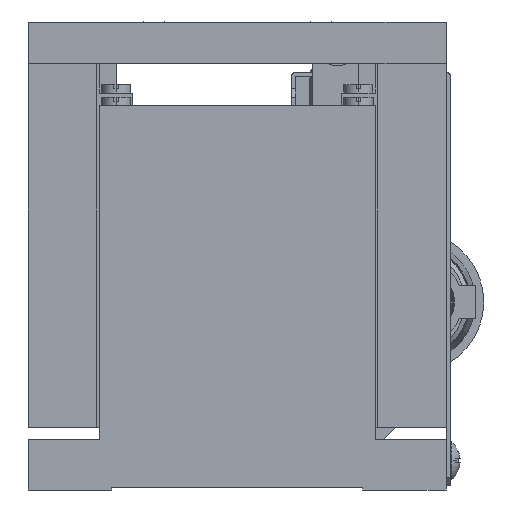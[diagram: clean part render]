
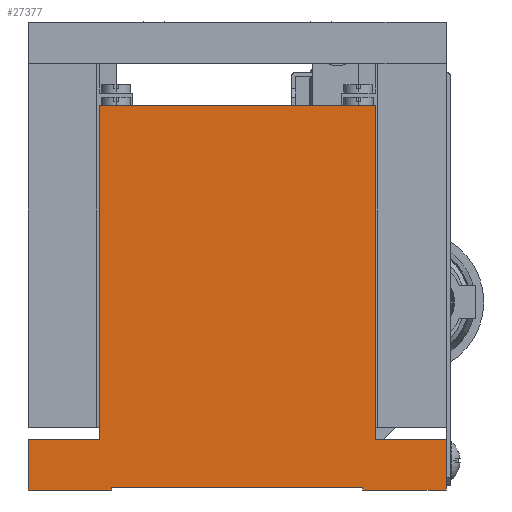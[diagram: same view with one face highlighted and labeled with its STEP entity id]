
A CAD part, left-side view. The second image highlights one B-rep face of the part: STEP entity #27377.
In plain terms, the highlighted planar face has unit normal (-1, 0, 0).
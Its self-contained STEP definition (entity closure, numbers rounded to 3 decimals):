
#443 = LINE ( 'NONE', #21240, #42556 ) ;
#1587 = ORIENTED_EDGE ( 'NONE', *, *, #22183, .T. ) ;
#1855 = EDGE_CURVE ( 'NONE', #29939, #47254, #47954, .T. ) ;
#2358 = CARTESIAN_POINT ( 'NONE',  ( -143.935, -0.5, -91.533 ) ) ;
#2485 = ORIENTED_EDGE ( 'NONE', *, *, #9915, .F. ) ;
#4109 = VECTOR ( 'NONE', #18119, 1000. ) ;
#4693 = EDGE_CURVE ( 'NONE', #47254, #36971, #38980, .T. ) ;
#4984 = CARTESIAN_POINT ( 'NONE',  ( -143.935, -0.5, -51.533 ) ) ;
#5190 = LINE ( 'NONE', #52451, #9577 ) ;
#6067 = LINE ( 'NONE', #39865, #47514 ) ;
#6122 = CARTESIAN_POINT ( 'NONE',  ( -143.935, -9., -91.533 ) ) ;
#6722 = ORIENTED_EDGE ( 'NONE', *, *, #47785, .T. ) ;
#6800 = VERTEX_POINT ( 'NONE', #28895 ) ;
#6886 = EDGE_CURVE ( 'NONE', #49344, #36899, #443, .T. ) ;
#6894 = VECTOR ( 'NONE', #27675, 1000. ) ;
#7329 = CARTESIAN_POINT ( 'NONE',  ( -143.935, 16., -97.533 ) ) ;
#7390 = CARTESIAN_POINT ( 'NONE',  ( -143.935, 1., -97.233 ) ) ;
#9044 = DIRECTION ( 'NONE',  ( 0., 0., 1. ) ) ;
#9207 = EDGE_CURVE ( 'NONE', #13121, #29939, #20279, .T. ) ;
#9266 = VERTEX_POINT ( 'NONE', #43283 ) ;
#9577 = VECTOR ( 'NONE', #49041, 1000. ) ;
#9915 = EDGE_CURVE ( 'NONE', #38780, #31003, #17601, .T. ) ;
#10507 = LINE ( 'NONE', #22406, #4109 ) ;
#11453 = CARTESIAN_POINT ( 'NONE',  ( -143.935, 1., -97.533 ) ) ;
#12042 = LINE ( 'NONE', #37595, #26734 ) ;
#12072 = EDGE_CURVE ( 'NONE', #37241, #31003, #5190, .T. ) ;
#12506 = CARTESIAN_POINT ( 'NONE',  ( -143.935, 31., -97.533 ) ) ;
#12648 = ORIENTED_EDGE ( 'NONE', *, *, #36181, .T. ) ;
#13121 = VERTEX_POINT ( 'NONE', #12506 ) ;
#15530 = PLANE ( 'NONE',  #45654 ) ;
#15562 = DIRECTION ( 'NONE',  ( 0., -1., 0. ) ) ;
#15633 = DIRECTION ( 'NONE',  ( 0., 0., -1. ) ) ;
#16344 = EDGE_CURVE ( 'NONE', #36899, #46602, #6067, .T. ) ;
#17241 = VECTOR ( 'NONE', #31570, 1000. ) ;
#17601 = LINE ( 'NONE', #24420, #32280 ) ;
#18119 = DIRECTION ( 'NONE',  ( 0., 0., 1. ) ) ;
#18138 = CARTESIAN_POINT ( 'NONE',  ( -143.935, 31., -97.533 ) ) ;
#18546 = CARTESIAN_POINT ( 'NONE',  ( -143.935, -9., -97.533 ) ) ;
#18980 = ORIENTED_EDGE ( 'NONE', *, *, #6886, .T. ) ;
#19138 = CARTESIAN_POINT ( 'NONE',  ( -143.935, 32.5, -51.533 ) ) ;
#19374 = DIRECTION ( 'NONE',  ( 0., 1., 0. ) ) ;
#19481 = CARTESIAN_POINT ( 'NONE',  ( -143.935, 16., -91.533 ) ) ;
#19808 = CARTESIAN_POINT ( 'NONE',  ( -143.935, 16., -91.533 ) ) ;
#19916 = CARTESIAN_POINT ( 'NONE',  ( -143.935, 1., -97.233 ) ) ;
#20279 = LINE ( 'NONE', #18138, #36852 ) ;
#21240 = CARTESIAN_POINT ( 'NONE',  ( -143.935, -9., -97.533 ) ) ;
#21900 = DIRECTION ( 'NONE',  ( 0., 0., 1. ) ) ;
#21989 = EDGE_LOOP ( 'NONE', ( #22498, #2485, #1587, #24333, #6722, #49608, #46058, #23742, #23599, #18980, #51044, #12648 ) ) ;
#22183 = EDGE_CURVE ( 'NONE', #38780, #9266, #23527, .T. ) ;
#22406 = CARTESIAN_POINT ( 'NONE',  ( -143.935, -0.5, -91.533 ) ) ;
#22498 = ORIENTED_EDGE ( 'NONE', *, *, #12072, .T. ) ;
#23527 = LINE ( 'NONE', #19481, #6894 ) ;
#23599 = ORIENTED_EDGE ( 'NONE', *, *, #36964, .T. ) ;
#23742 = ORIENTED_EDGE ( 'NONE', *, *, #4693, .T. ) ;
#24333 = ORIENTED_EDGE ( 'NONE', *, *, #40282, .F. ) ;
#24420 = CARTESIAN_POINT ( 'NONE',  ( -143.935, 32.5, -91.533 ) ) ;
#26734 = VECTOR ( 'NONE', #21900, 1000. ) ;
#27377 = ADVANCED_FACE ( 'NONE', ( #45040 ), #15530, .F. ) ;
#27675 = DIRECTION ( 'NONE',  ( 0., 1., 0. ) ) ;
#27692 = CARTESIAN_POINT ( 'NONE',  ( -143.935, 16., -97.533 ) ) ;
#28859 = VECTOR ( 'NONE', #15562, 1000. ) ;
#28895 = CARTESIAN_POINT ( 'NONE',  ( -143.935, 41., -97.533 ) ) ;
#29939 = VERTEX_POINT ( 'NONE', #50064 ) ;
#31003 = VERTEX_POINT ( 'NONE', #19138 ) ;
#31570 = DIRECTION ( 'NONE',  ( 0., -1., 0. ) ) ;
#32280 = VECTOR ( 'NONE', #9044, 1000. ) ;
#34787 = DIRECTION ( 'NONE',  ( 0., -1., 0. ) ) ;
#35800 = LINE ( 'NONE', #7329, #17241 ) ;
#36181 = EDGE_CURVE ( 'NONE', #46602, #37241, #10507, .T. ) ;
#36852 = VECTOR ( 'NONE', #46844, 1000. ) ;
#36899 = VERTEX_POINT ( 'NONE', #6122 ) ;
#36964 = EDGE_CURVE ( 'NONE', #36971, #49344, #43630, .T. ) ;
#36971 = VERTEX_POINT ( 'NONE', #11453 ) ;
#37241 = VERTEX_POINT ( 'NONE', #4984 ) ;
#37286 = DIRECTION ( 'NONE',  ( 0., 0., 1. ) ) ;
#37595 = CARTESIAN_POINT ( 'NONE',  ( -143.935, 41., -97.533 ) ) ;
#38780 = VERTEX_POINT ( 'NONE', #47928 ) ;
#38980 = LINE ( 'NONE', #19916, #42127 ) ;
#39790 = DIRECTION ( 'NONE',  ( 1., 0., 0. ) ) ;
#39865 = CARTESIAN_POINT ( 'NONE',  ( -143.935, 16., -91.533 ) ) ;
#40282 = EDGE_CURVE ( 'NONE', #6800, #9266, #12042, .T. ) ;
#42127 = VECTOR ( 'NONE', #15633, 1000. ) ;
#42556 = VECTOR ( 'NONE', #37286, 1000. ) ;
#42793 = CARTESIAN_POINT ( 'NONE',  ( -143.935, 31., -97.233 ) ) ;
#43283 = CARTESIAN_POINT ( 'NONE',  ( -143.935, 41., -91.533 ) ) ;
#43630 = LINE ( 'NONE', #27692, #28859 ) ;
#45040 = FACE_OUTER_BOUND ( 'NONE', #21989, .T. ) ;
#45400 = VECTOR ( 'NONE', #34787, 1000. ) ;
#45654 = AXIS2_PLACEMENT_3D ( 'NONE', #19808, #39790, #48290 ) ;
#46058 = ORIENTED_EDGE ( 'NONE', *, *, #1855, .T. ) ;
#46602 = VERTEX_POINT ( 'NONE', #2358 ) ;
#46844 = DIRECTION ( 'NONE',  ( 0., 0., 1. ) ) ;
#47254 = VERTEX_POINT ( 'NONE', #7390 ) ;
#47514 = VECTOR ( 'NONE', #19374, 1000. ) ;
#47785 = EDGE_CURVE ( 'NONE', #6800, #13121, #35800, .T. ) ;
#47928 = CARTESIAN_POINT ( 'NONE',  ( -143.935, 32.5, -91.533 ) ) ;
#47954 = LINE ( 'NONE', #42793, #45400 ) ;
#48290 = DIRECTION ( 'NONE',  ( 0., 0., -1. ) ) ;
#49041 = DIRECTION ( 'NONE',  ( 0., 1., 0. ) ) ;
#49344 = VERTEX_POINT ( 'NONE', #18546 ) ;
#49608 = ORIENTED_EDGE ( 'NONE', *, *, #9207, .T. ) ;
#50064 = CARTESIAN_POINT ( 'NONE',  ( -143.935, 31., -97.233 ) ) ;
#51044 = ORIENTED_EDGE ( 'NONE', *, *, #16344, .T. ) ;
#52451 = CARTESIAN_POINT ( 'NONE',  ( -143.935, 16., -51.533 ) ) ;
